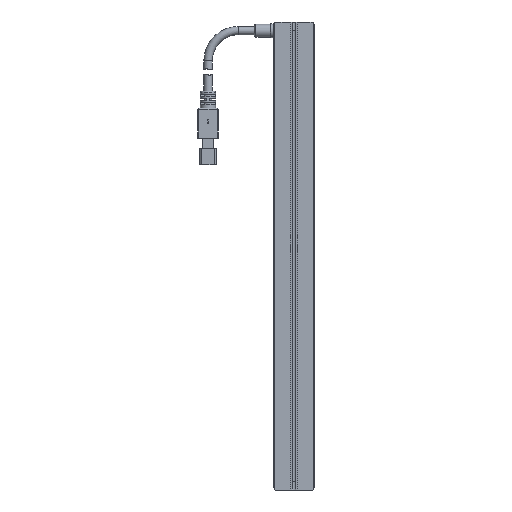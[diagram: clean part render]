
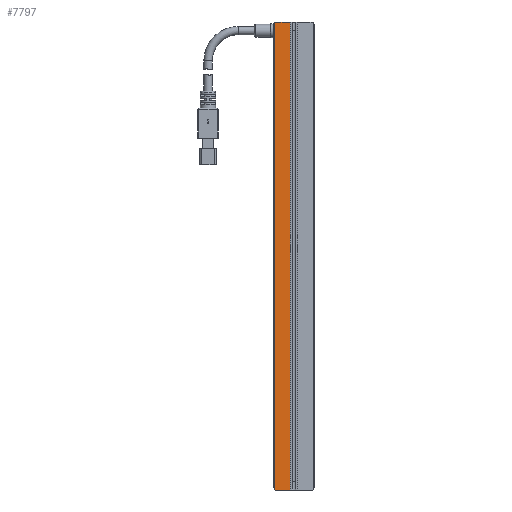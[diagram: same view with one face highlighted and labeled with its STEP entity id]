
A CAD part, front view. The second image highlights one B-rep face of the part: STEP entity #7797.
In plain terms, the highlighted planar face has unit normal (0, -1, 0).
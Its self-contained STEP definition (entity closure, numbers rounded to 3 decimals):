
#50 = CARTESIAN_POINT ( 'NONE',  ( -9.5, 0., 115.5 ) ) ;
#468 = DIRECTION ( 'NONE',  ( 0., 0., -1. ) ) ;
#998 = FACE_OUTER_BOUND ( 'NONE', #1487, .T. ) ;
#1464 = AXIS2_PLACEMENT_3D ( 'NONE', #2049, #18259, #6450 ) ;
#1487 = EDGE_LOOP ( 'NONE', ( #14478, #13780, #5343, #18829, #17480, #4158 ) ) ;
#1514 = EDGE_CURVE ( 'NONE', #3060, #5073, #8017, .T. ) ;
#2049 = CARTESIAN_POINT ( 'NONE',  ( 0., 0., 116. ) ) ;
#2709 = VERTEX_POINT ( 'NONE', #5841 ) ;
#2734 = VERTEX_POINT ( 'NONE', #16402 ) ;
#3060 = VERTEX_POINT ( 'NONE', #50 ) ;
#3262 = CARTESIAN_POINT ( 'NONE',  ( 0., 0., -116. ) ) ;
#4017 = VECTOR ( 'NONE', #11623, 1000. ) ;
#4158 = ORIENTED_EDGE ( 'NONE', *, *, #9181, .F. ) ;
#4204 = LINE ( 'NONE', #18476, #15526 ) ;
#4355 = CARTESIAN_POINT ( 'NONE',  ( -4.5, 0., 120.5 ) ) ;
#4480 = DIRECTION ( 'NONE',  ( -0.707, 0., -0.707 ) ) ;
#5073 = VERTEX_POINT ( 'NONE', #15756 ) ;
#5343 = ORIENTED_EDGE ( 'NONE', *, *, #1514, .T. ) ;
#5841 = CARTESIAN_POINT ( 'NONE',  ( -1.75, 0., -116. ) ) ;
#6450 = DIRECTION ( 'NONE',  ( 1., 0., 0. ) ) ;
#7331 = EDGE_CURVE ( 'NONE', #2734, #16879, #18125, .T. ) ;
#7698 = LINE ( 'NONE', #13786, #13682 ) ;
#7774 = EDGE_CURVE ( 'NONE', #2709, #11075, #11587, .T. ) ;
#7797 = ADVANCED_FACE ( 'NONE', ( #998 ), #16695, .T. ) ;
#8017 = LINE ( 'NONE', #14943, #15623 ) ;
#8631 = EDGE_CURVE ( 'NONE', #5073, #11075, #4204, .T. ) ;
#9181 = EDGE_CURVE ( 'NONE', #2734, #2709, #7698, .T. ) ;
#9271 = DIRECTION ( 'NONE',  ( -1., 0., 0. ) ) ;
#11075 = VERTEX_POINT ( 'NONE', #13567 ) ;
#11587 = LINE ( 'NONE', #3262, #17859 ) ;
#11623 = DIRECTION ( 'NONE',  ( -1., 0., 0. ) ) ;
#12363 = CARTESIAN_POINT ( 'NONE',  ( -9., 0., 116. ) ) ;
#12453 = LINE ( 'NONE', #4355, #17092 ) ;
#13540 = EDGE_CURVE ( 'NONE', #16879, #3060, #12453, .T. ) ;
#13567 = CARTESIAN_POINT ( 'NONE',  ( -9., 0., -116. ) ) ;
#13682 = VECTOR ( 'NONE', #468, 1000. ) ;
#13780 = ORIENTED_EDGE ( 'NONE', *, *, #13540, .T. ) ;
#13786 = CARTESIAN_POINT ( 'NONE',  ( -1.75, 0., 116. ) ) ;
#14478 = ORIENTED_EDGE ( 'NONE', *, *, #7331, .T. ) ;
#14943 = CARTESIAN_POINT ( 'NONE',  ( -9.5, 0., 116. ) ) ;
#15526 = VECTOR ( 'NONE', #18261, 1000. ) ;
#15623 = VECTOR ( 'NONE', #16469, 1000. ) ;
#15756 = CARTESIAN_POINT ( 'NONE',  ( -9.5, 0., -115.5 ) ) ;
#15789 = CARTESIAN_POINT ( 'NONE',  ( 0., 0., 116. ) ) ;
#16402 = CARTESIAN_POINT ( 'NONE',  ( -1.75, 0., 116. ) ) ;
#16469 = DIRECTION ( 'NONE',  ( 0., 0., -1. ) ) ;
#16695 = PLANE ( 'NONE',  #1464 ) ;
#16879 = VERTEX_POINT ( 'NONE', #12363 ) ;
#17092 = VECTOR ( 'NONE', #4480, 1000. ) ;
#17480 = ORIENTED_EDGE ( 'NONE', *, *, #7774, .F. ) ;
#17859 = VECTOR ( 'NONE', #9271, 1000. ) ;
#18125 = LINE ( 'NONE', #15789, #4017 ) ;
#18259 = DIRECTION ( 'NONE',  ( 0., -1., 0. ) ) ;
#18261 = DIRECTION ( 'NONE',  ( 0.707, 0., -0.707 ) ) ;
#18476 = CARTESIAN_POINT ( 'NONE',  ( -120.5, 0., -4.5 ) ) ;
#18829 = ORIENTED_EDGE ( 'NONE', *, *, #8631, .T. ) ;
